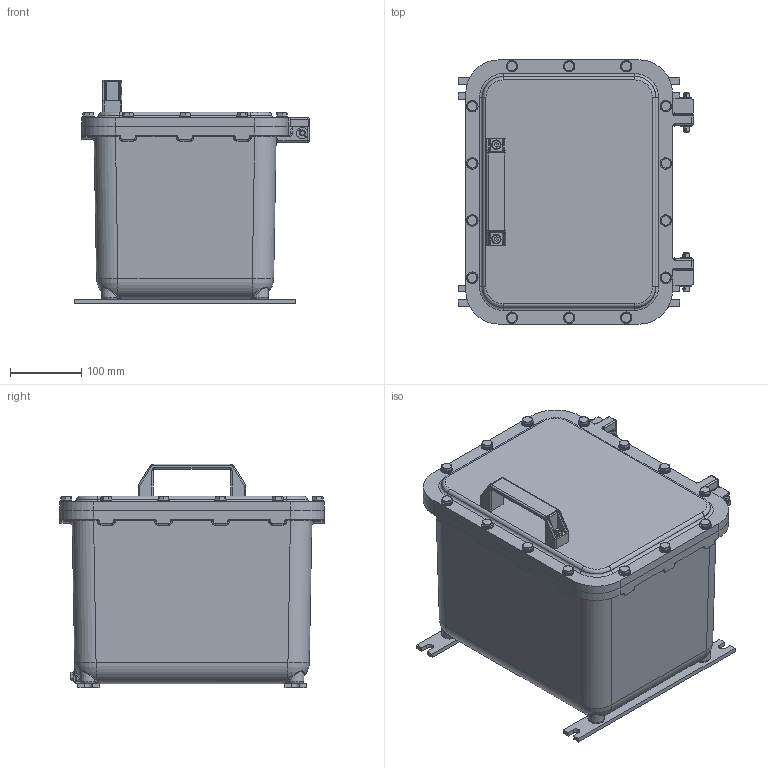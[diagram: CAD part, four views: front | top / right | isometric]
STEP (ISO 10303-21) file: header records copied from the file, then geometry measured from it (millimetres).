
FILE_DESCRIPTION((''),'2;1');
FILE_NAME('\\file-server\cortem_klient\INVENTOR БАЗА МОДЕЛЕЙ\Актуальная база моделей для отдела продаж\ЩОРВ-Н\ЩОРВ-Н372926.stp','2019-04-10T14:53:35',('V.E.Dolguev'),(''),'Autodesk Inventor 2012','Autodesk Inventor 2012','');
FILE_SCHEMA(('AUTOMOTIVE_DESIGN { 1 0 10303 214 1 1 1 1 }'));
Length unit declared in the file: millimetre
Products named in the file (1): ЩОРВ-Н372926
Bounding box: 329.31 x 370 x 313.2 mm (x, y, z)
Surface area: 1074329.7 mm2 (no closed solid volume)
Topology: 0 solids, 59 shells, 1775 faces, 4157 edges, 2579 vertices
Faces by surface type: plane 701, cylinder 471, bspline 353, cone 168, sphere 46, torus 36
Full cylindrical faces by diameter (mm): 2.1 x4, 3 x8, 4.917 x7, 6 x3, 6.4 x1, 6.5 x2, 6.647 x16, 7.323 x14, 7.9 x3, 8 x18, 8.376 x4, 8.4 x20, 8.5 x20, 10 x4, 11 x4, 11.4 x14, 12 x1, 13 x2, 13.5 x2, 16 x20, 20 x4
Entity records: 67380 total; most frequent: CARTESIAN_POINT 28067, ORIENTED_EDGE 7628, DIRECTION 7109, EDGE_CURVE 3814, AXIS2_PLACEMENT_3D 2680, VERTEX_POINT 2519, EDGE_LOOP 2277, FACE_OUTER_BOUND 1775
